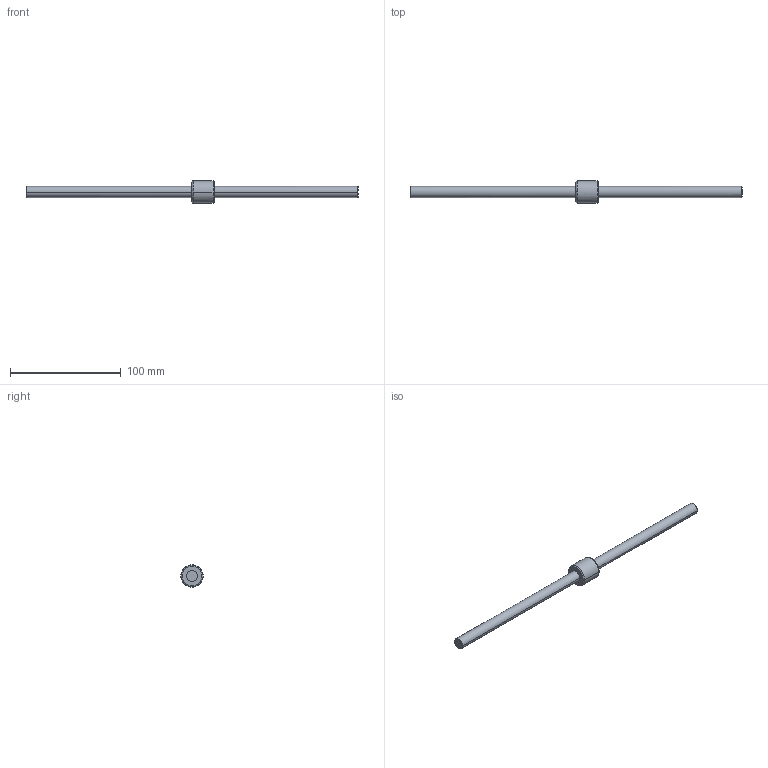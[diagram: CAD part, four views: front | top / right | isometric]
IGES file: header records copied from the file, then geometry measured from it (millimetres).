
Global section: file name: No Iges File Name specified; native system: AutoDesk Inventor R10; preprocessor: AutoDesk Inventor Iges Exporter R10; author: No Author specified; organization: No Organization specified; date: 20101224.154432; units: millimetre
Bounding box: 300 x 20 x 20 mm (x, y, z)
Surface area: 11883.2 mm2 (no closed solid volume)
Topology: 0 solids, 0 shells, 14 faces, 88 edges, 88 vertices
Faces by surface type: bspline 14
